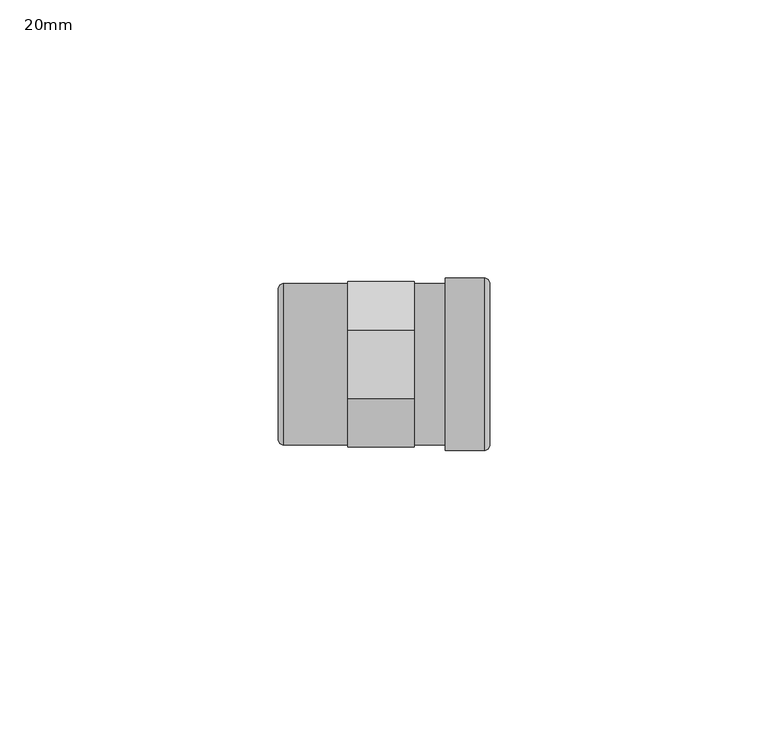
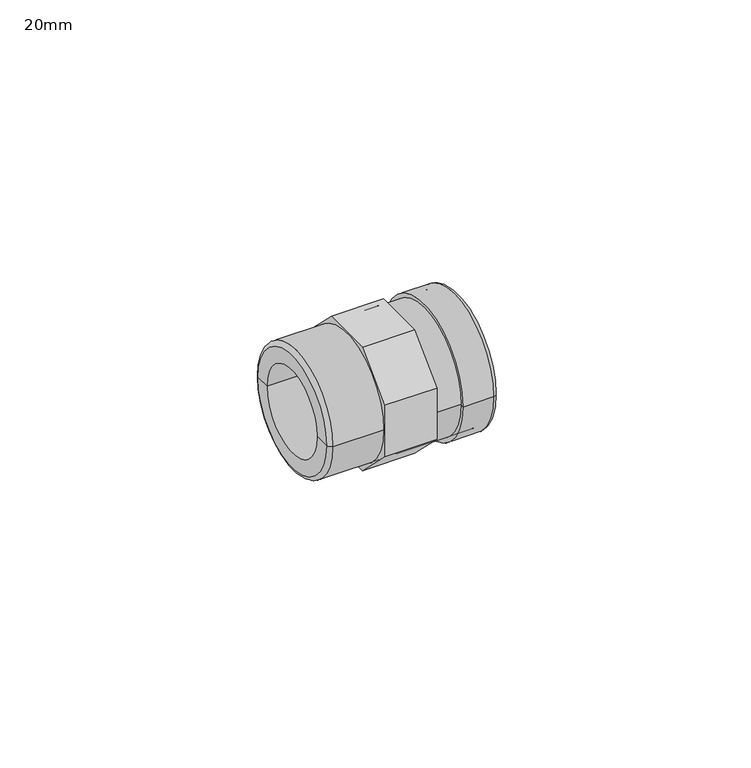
"""IFC4 building model written with IfcOpenShell, lengths in millimetres: pipe fitting geometry, Durapipe_PipeFitting_PVC_PlainThreadedSockets : 20mm."""

from ifc_helpers import new_model, si_unit, point, frame, origin, origin_2d, place, context, project, spatial, polyline, circle_curve, ellipse_curve, trimmed, segment, composite_curve, outline, extrude, source, transform, mapped, element, save
from ifc_brep_helpers import plane_surface, cylinder_surface, revolved_surface, advanced_brep


def pipe_fitting_20mm_adb13d9c(model_context):
    return source(origin(), model_context, "Body", "SolidModel", [
        extrude(outline(polyline([(-14.9, 6.1717821), (-6.1717821, 14.9), (6.1717821, 14.9), (14.9, 6.1717821), (14.9, -6.1717821), (6.1717821, -14.9), (-6.1717821, -14.9), (-14.9, -6.1717821), (-14.9, 6.1717821)]), holes=[composite_curve([segment(trimmed(circle_curve(origin_2d(), 14.5), [point((-14.5, 0.0))], [point((14.5, 0.0))], True, "CARTESIAN"), True, "CONTINUOUS"), segment(trimmed(circle_curve(origin_2d(), 14.5), [point((14.5, 0.0))], [point((-14.5, 0.0))], True, "CARTESIAN"), True, "CONTINUOUS")], self_intersect=False)]), frame((-5.75, 0.0, 0.0), z_axis=(1.0, 0.0, 0.0), x_axis=(0.0, 1.0, 0.0)), (0.0, 0.0, 1.0), 11.9),
        advanced_brep(
        [(17.25, -14.5, 0.0), (17.25, 14.5, 0.0), (17.25, 10.0, 0.0), (17.25, -10.0, 0.0), (-17.25, -14.5, 0.0), (-17.25, 14.5, 0.0), (-18.25, -10.0, 0.0), (-18.25, 10.0, 0.0), (-18.25, 13.5, 0.0), (-18.25, -13.5, 0.0), (-1.75, -10.0, 0.0), (-1.75, 10.0, 0.0), (-1.75, -8.6, 0.0), (-1.75, 8.6, 0.0), (1.75, -8.6, 0.0), (1.75, 8.6, 0.0), (1.75, -10.0, 0.0), (1.75, 10.0, 0.0)],
        [
            (0, 1, circle_curve(frame((17.25, 0.0, 0.0), z_axis=(1.0, 0.0, 0.0), x_axis=(0.0, 1.0, 0.0)), 14.5)),
            (1, 2),
            (2, 3, circle_curve(frame((17.25, 0.0, 0.0), z_axis=(-1.0, 0.0, 0.0), x_axis=(0.0, 1.0, 0.0)), 10.0)),
            (3, 0),
            (1, 0, circle_curve(frame((17.25, 0.0, 0.0), z_axis=(1.0, 0.0, 0.0), x_axis=(0.0, 1.0, 0.0)), 14.5)),
            (3, 2, circle_curve(frame((17.25, 0.0, 0.0), z_axis=(-1.0, 0.0, 0.0), x_axis=(0.0, 1.0, 0.0)), 10.0)),
            (4, 5, circle_curve(frame((-17.25, 0.0, 0.0), z_axis=(1.0, 0.0, 0.0), x_axis=(0.0, 1.0, 0.0)), 14.5)),
            (5, 1),
            (0, 4),
            (5, 4, circle_curve(frame((-17.25, 0.0, 0.0), z_axis=(1.0, 0.0, 0.0), x_axis=(0.0, 1.0, 0.0)), 14.5)),
            (6, 7, circle_curve(frame((-18.25, 0.0, 0.0), z_axis=(1.0, 0.0, 0.0), x_axis=(0.0, 1.0, 0.0)), 10.0)),
            (7, 8),
            (8, 9, circle_curve(frame((-18.25, 0.0, 0.0), z_axis=(-1.0, 0.0, 0.0), x_axis=(0.0, 1.0, 0.0)), 13.5)),
            (9, 6),
            (7, 6, circle_curve(frame((-18.25, 0.0, 0.0), z_axis=(1.0, 0.0, 0.0), x_axis=(0.0, 1.0, 0.0)), 10.0)),
            (9, 8, circle_curve(frame((-18.25, 0.0, 0.0), z_axis=(-1.0, 0.0, 0.0), x_axis=(0.0, 1.0, 0.0)), 13.5)),
            (10, 11, circle_curve(frame((-1.75, 0.0, 0.0), z_axis=(1.0, 0.0, 0.0), x_axis=(0.0, 1.0, 0.0)), 10.0)),
            (11, 7),
            (6, 10),
            (11, 10, circle_curve(frame((-1.75, 0.0, 0.0), z_axis=(1.0, 0.0, 0.0), x_axis=(0.0, 1.0, 0.0)), 10.0)),
            (12, 13, circle_curve(frame((-1.75, 0.0, 0.0), z_axis=(1.0, 0.0, 0.0), x_axis=(0.0, 1.0, 0.0)), 8.6)),
            (13, 11),
            (10, 12),
            (13, 12, circle_curve(frame((-1.75, 0.0, 0.0), z_axis=(1.0, 0.0, 0.0), x_axis=(0.0, 1.0, 0.0)), 8.6)),
            (14, 15, circle_curve(frame((1.75, 0.0, 0.0), z_axis=(1.0, 0.0, 0.0), x_axis=(0.0, 1.0, 0.0)), 8.6)),
            (15, 13),
            (12, 14),
            (15, 14, circle_curve(frame((1.75, 0.0, 0.0), z_axis=(1.0, 0.0, 0.0), x_axis=(0.0, 1.0, 0.0)), 8.6)),
            (16, 17, circle_curve(frame((1.75, 0.0, 0.0), z_axis=(1.0, 0.0, 0.0), x_axis=(0.0, 1.0, 0.0)), 10.0)),
            (17, 15),
            (14, 16),
            (17, 16, circle_curve(frame((1.75, 0.0, 0.0), z_axis=(1.0, 0.0, 0.0), x_axis=(0.0, 1.0, 0.0)), 10.0)),
            (2, 17),
            (16, 3),
            (8, 5, circle_curve(frame((-17.25, 13.5, 0.0), z_axis=(0.0, 0.0, -1.0), x_axis=(1.0, 0.0, 0.0)), 1.0)),
            (4, 9, circle_curve(frame((-17.25, -13.5, 0.0), z_axis=(0.0, 0.0, -1.0), x_axis=(1.0, 0.0, 0.0)), 1.0)),
        ],
        [
            plane_surface(frame((17.25, 0.0, 0.0), z_axis=(1.0, 0.0, 0.0), x_axis=(0.0, 1.0, 0.0))),
            cylinder_surface(frame((-33.8346764, 0.0, 0.0), z_axis=(-1.0, 0.0, 0.0), x_axis=(0.0, 1.0, 0.0)), 14.5),
            plane_surface(frame((-18.25, 0.0, 0.0), z_axis=(-1.0, 0.0, 0.0), x_axis=(0.0, 1.0, 0.0))),
            revolved_surface(polyline([(-18.25, 10.0, 0.0), (-1.75, 10.0, 0.0)]), (-33.8346764, 0.0, 0.0), (-1.0, 0.0, 0.0)),
            plane_surface(frame((-1.75, 0.0, 0.0), z_axis=(-1.0, 0.0, 0.0), x_axis=(0.0, 1.0, 0.0))),
            revolved_surface(polyline([(-1.75, 8.6, 0.0), (1.75, 8.6, 0.0)]), (-33.8346764, 0.0, 0.0), (-1.0, 0.0, 0.0)),
            plane_surface(frame((1.75, 0.0, 0.0), z_axis=(1.0, 0.0, 0.0), x_axis=(0.0, 1.0, 0.0))),
            revolved_surface(polyline([(1.75, 10.0, 0.0), (17.25, 10.0, 0.0)]), (-33.8346764, 0.0, 0.0), (-1.0, 0.0, 0.0)),
            revolved_surface(trimmed(ellipse_curve(frame((-17.25, 13.5, 0.0), z_axis=(0.0, 0.0, 1.0), x_axis=(1.0, 0.0, 0.0)), 1.0, 1.0), [point((-17.25, 14.5, 0.0))], [point((-18.25, 13.5, 0.0))], True, "CARTESIAN"), (-33.8346764, 0.0, 0.0), (-1.0, 0.0, 0.0)),
        ],
        [
            (0, [[1, 2, 3, 4]]),
            (0, [[5, -4, 6, -2]]),
            (1, [[7, 8, -1, 9]]),
            (1, [[10, -9, -5, -8]]),
            (2, [[11, 12, 13, 14]]),
            (2, [[15, -14, 16, -12]]),
            (3, [[17, 18, -11, 19]]),
            (3, [[20, -19, -15, -18]]),
            (4, [[21, 22, -17, 23]]),
            (4, [[24, -23, -20, -22]]),
            (5, [[25, 26, -21, 27]]),
            (5, [[28, -27, -24, -26]]),
            (6, [[29, 30, -25, 31]]),
            (6, [[32, -31, -28, -30]]),
            (7, [[-3, 33, -29, 34]]),
            (7, [[-6, -34, -32, -33]]),
            (8, [[-13, 35, -7, 36]]),
            (8, [[-16, -36, -10, -35]]),
        ],
    ),
        advanced_brep(
        [(11.75, -14.5, 0.0), (11.75, 14.5, 0.0), (11.75, 15.5, 0.0), (11.75, -15.5, 0.0), (17.25, -14.5, 0.0), (17.25, 14.5, 0.0), (17.25, -10.8, 0.0), (17.25, 10.8, 0.0), (19.75, -10.8, 0.0), (19.75, 10.8, 0.0), (19.75, -14.5, 0.0), (19.75, 14.5, 0.0), (18.75, 15.5, 0.0), (18.75, -15.5, 0.0)],
        [
            (0, 1, circle_curve(frame((11.75, 0.0, 0.0), z_axis=(1.0, 0.0, 0.0), x_axis=(0.0, 1.0, 0.0)), 14.5)),
            (1, 2),
            (2, 3, circle_curve(frame((11.75, 0.0, 0.0), z_axis=(-1.0, 0.0, 0.0), x_axis=(0.0, 1.0, 0.0)), 15.5)),
            (3, 0),
            (1, 0, circle_curve(frame((11.75, 0.0, 0.0), z_axis=(1.0, 0.0, 0.0), x_axis=(0.0, 1.0, 0.0)), 14.5)),
            (3, 2, circle_curve(frame((11.75, 0.0, 0.0), z_axis=(-1.0, 0.0, 0.0), x_axis=(0.0, 1.0, 0.0)), 15.5)),
            (4, 5, circle_curve(frame((17.25, 0.0, 0.0), z_axis=(1.0, 0.0, 0.0), x_axis=(0.0, 1.0, 0.0)), 14.5)),
            (5, 1),
            (0, 4),
            (5, 4, circle_curve(frame((17.25, 0.0, 0.0), z_axis=(1.0, 0.0, 0.0), x_axis=(0.0, 1.0, 0.0)), 14.5)),
            (6, 7, circle_curve(frame((17.25, 0.0, 0.0), z_axis=(1.0, 0.0, 0.0), x_axis=(0.0, 1.0, 0.0)), 10.8)),
            (7, 5),
            (4, 6),
            (7, 6, circle_curve(frame((17.25, 0.0, 0.0), z_axis=(1.0, 0.0, 0.0), x_axis=(0.0, 1.0, 0.0)), 10.8)),
            (8, 9, circle_curve(frame((19.75, 0.0, 0.0), z_axis=(1.0, 0.0, 0.0), x_axis=(0.0, 1.0, 0.0)), 10.8)),
            (9, 7),
            (6, 8),
            (9, 8, circle_curve(frame((19.75, 0.0, 0.0), z_axis=(1.0, 0.0, 0.0), x_axis=(0.0, 1.0, 0.0)), 10.8)),
            (10, 11, circle_curve(frame((19.75, 0.0, 0.0), z_axis=(1.0, 0.0, 0.0), x_axis=(0.0, 1.0, 0.0)), 14.5)),
            (11, 9),
            (8, 10),
            (11, 10, circle_curve(frame((19.75, 0.0, 0.0), z_axis=(1.0, 0.0, 0.0), x_axis=(0.0, 1.0, 0.0)), 14.5)),
            (2, 12),
            (12, 13, circle_curve(frame((18.75, 0.0, 0.0), z_axis=(-1.0, 0.0, 0.0), x_axis=(0.0, 1.0, 0.0)), 15.5)),
            (13, 3),
            (13, 12, circle_curve(frame((18.75, 0.0, 0.0), z_axis=(-1.0, 0.0, 0.0), x_axis=(0.0, 1.0, 0.0)), 15.5)),
            (12, 11, circle_curve(frame((18.75, 14.5, 0.0), z_axis=(0.0, 0.0, -1.0), x_axis=(1.0, 0.0, 0.0)), 1.0)),
            (10, 13, circle_curve(frame((18.75, -14.5, 0.0), z_axis=(0.0, 0.0, -1.0), x_axis=(1.0, 0.0, 0.0)), 1.0)),
        ],
        [
            plane_surface(frame((11.75, 0.0, 0.0), z_axis=(-1.0, 0.0, 0.0), x_axis=(0.0, 1.0, 0.0))),
            revolved_surface(polyline([(11.75, 14.5, 0.0), (17.25, 14.5, 0.0)]), (25.6537641, 0.0, 0.0), (-1.0, 0.0, 0.0)),
            plane_surface(frame((17.25, 0.0, 0.0), z_axis=(-1.0, 0.0, 0.0), x_axis=(0.0, 1.0, 0.0))),
            revolved_surface(polyline([(17.25, 10.8, 0.0), (19.75, 10.8, 0.0)]), (25.6537641, 0.0, 0.0), (-1.0, 0.0, 0.0)),
            plane_surface(frame((19.75, 0.0, 0.0), z_axis=(1.0, 0.0, 0.0), x_axis=(0.0, 1.0, 0.0))),
            cylinder_surface(frame((25.6537641, 0.0, 0.0), z_axis=(-1.0, 0.0, 0.0), x_axis=(0.0, 1.0, 0.0)), 15.5),
            revolved_surface(trimmed(ellipse_curve(frame((18.75, 14.5, 0.0), z_axis=(0.0, 0.0, 1.0), x_axis=(1.0, 0.0, 0.0)), 1.0, 1.0), [point((19.75, 14.5, 0.0))], [point((18.75, 15.5, 0.0))], True, "CARTESIAN"), (25.6537641, 0.0, 0.0), (-1.0, 0.0, 0.0)),
        ],
        [
            (0, [[1, 2, 3, 4]]),
            (0, [[5, -4, 6, -2]]),
            (1, [[7, 8, -1, 9]]),
            (1, [[10, -9, -5, -8]]),
            (2, [[11, 12, -7, 13]]),
            (2, [[14, -13, -10, -12]]),
            (3, [[15, 16, -11, 17]]),
            (3, [[18, -17, -14, -16]]),
            (4, [[19, 20, -15, 21]]),
            (4, [[22, -21, -18, -20]]),
            (5, [[-3, 23, 24, 25]]),
            (5, [[-6, -25, 26, -23]]),
            (6, [[-24, 27, -19, 28]]),
            (6, [[-26, -28, -22, -27]]),
        ],
    ),
    ])


if __name__ == "__main__":
    model = new_model("IFC4")
    model_context = context("Model", 3, world=origin())
    ifc_project = project(units=[si_unit("LENGTHUNIT", "METRE", prefix="MILLI")], contexts=[model_context])
    site = spatial("IfcSite", under=ifc_project)
    building = spatial("IfcBuilding", under=site)
    placement = place(None, origin())
    pipe_fitting_20mm_shape = pipe_fitting_20mm_adb13d9c(model_context)
    element("IfcPipeFitting", 1, ObjectType="Durapipe_PipeFitting_PVC_PlainThreadedSockets : 20mm", at=placement, inside=building, context=model_context, shape_type="MappedRepresentation", body=[
        mapped(pipe_fitting_20mm_shape, transform((0.0, 0.0, 0.0), x_axis=(1.0, 0.0, 0.0), y_axis=(0.0, 1.0, 0.0), z_axis=(0.0, 0.0, 1.0))),
    ])
    save(model, "model.ifc")
